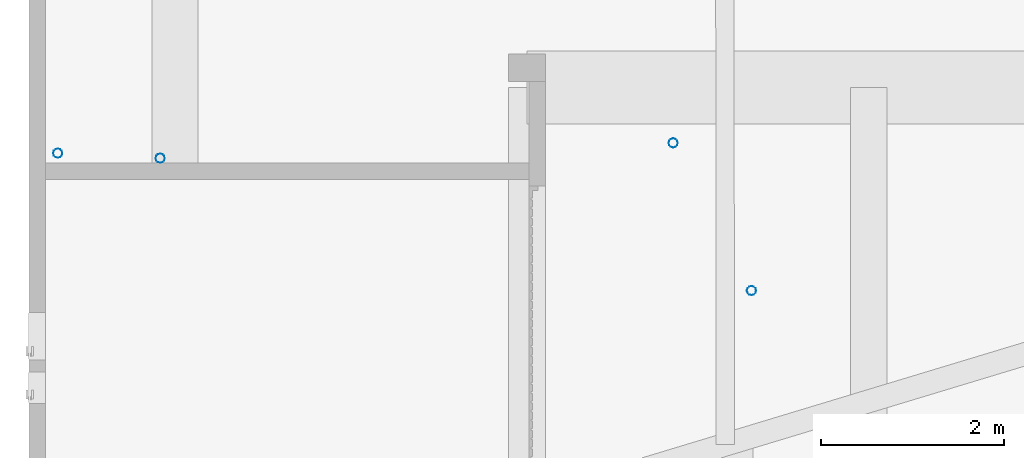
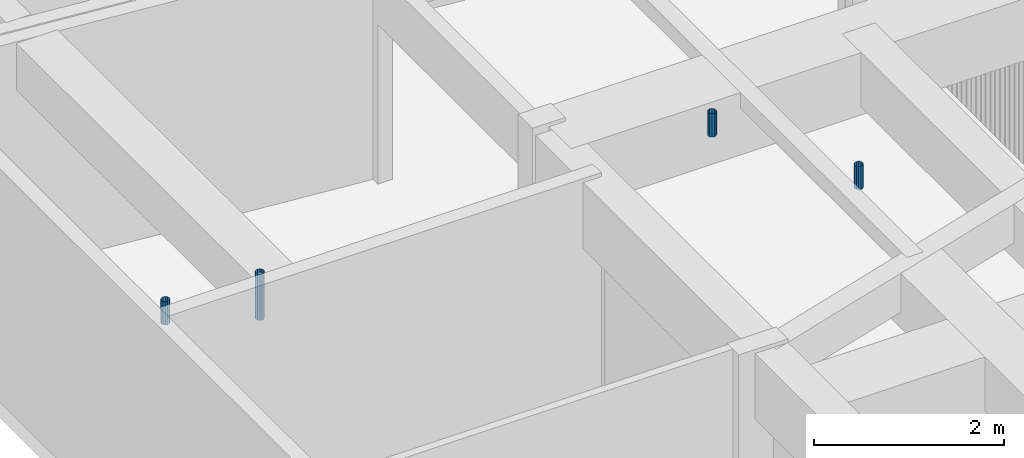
# One storey, part 25 of 41: 4 discrete accessories.
"""IFC2X3 building model written with IfcOpenShell, lengths in millimetres."""

from ifc_helpers import new_model, entity, si_unit, converted_unit, derived_unit, money_unit, direction, frame, origin_with_axes, place, context, subcontext, project, spatial, open_shell, surface_model, source, transform, mapped, type_object, element, save


model = new_model("IFC2X3")

# Units and contexts
model_context = context("Model", 3, precision=0.01, world=origin_with_axes(), true_north=direction((0.0, 1.0)))
body_context = subcontext(model_context, "Body", "Model", "MODEL_VIEW")
ifc_project = project(units=[si_unit("LENGTHUNIT", "METRE", prefix="MILLI"), si_unit("AREAUNIT", "SQUARE_METRE"), si_unit("VOLUMEUNIT", "CUBIC_METRE"), converted_unit("PLANEANGLEUNIT", "DEGREE", entity("IfcPlaneAngleMeasure", 0.0174532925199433), si_unit("PLANEANGLEUNIT", "RADIAN"), dimensions=[0, 0, 0, 0, 0, 0, 0]), money_unit("USD"), converted_unit("TIMEUNIT", "Year", entity("IfcTimeMeasure", 31557600.0), si_unit("TIMEUNIT", "SECOND"), dimensions=[0, 0, 1, 0, 0, 0, 0]), si_unit("MASSUNIT", "GRAM", prefix="KILO"), si_unit("THERMODYNAMICTEMPERATUREUNIT", "DEGREE_CELSIUS"), si_unit("LUMINOUSINTENSITYUNIT", "LUMEN"), si_unit("ENERGYUNIT", "JOULE", prefix="MEGA"), derived_unit("THERMALCONDUCTANCEUNIT", [(si_unit("POWERUNIT", "WATT"), 1), (si_unit("LENGTHUNIT", "METRE"), -1), (si_unit("THERMODYNAMICTEMPERATUREUNIT", "KELVIN"), -1)]), derived_unit("SPECIFICHEATCAPACITYUNIT", [(si_unit("ENERGYUNIT", "JOULE"), 1), (si_unit("MASSUNIT", "GRAM", prefix="KILO"), -1), (si_unit("THERMODYNAMICTEMPERATUREUNIT", "KELVIN"), -1)]), derived_unit("MASSDENSITYUNIT", [(si_unit("MASSUNIT", "GRAM", prefix="KILO"), 1), (si_unit("VOLUMEUNIT", "CUBIC_METRE"), -1)])], contexts=[model_context])

# Site, building, storey
site_placement = place(None, origin_with_axes())
site = spatial("IfcSite", under=ifc_project, at=site_placement, Name="Site", CompositionType="ELEMENT")
building_placement = place(site_placement, origin_with_axes())
building = spatial("IfcBuilding", under=site, at=building_placement, Name="Bâtiment", CompositionType="ELEMENT")
storey_placement = place(building_placement, origin_with_axes())
storey = spatial("IfcBuildingStorey", under=building, at=storey_placement, Name="sousol", CompositionType="ELEMENT", Elevation=0.0)

# Discrete accessories
discrete_accessory_type = type_object("IfcDiscreteAccessoryType", Name="Tuyau descente 27")
shared_shape_1 = source(origin_with_axes(), body_context, "Body", "SurfaceModel", [
    surface_model("IfcShellBasedSurfaceModel", [(-50.0, 0.0, 300.0), (-50.0, 0.0, 0.0), (-43.30127018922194, -25.0, 0.0), (-43.30127018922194, -25.0, 300.0), (-43.30127018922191, 25.00000000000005, 300.0), (-43.30127018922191, 25.00000000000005, 0.0), (-25.00000000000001, -43.30127018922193, 0.0), (-25.00000000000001, -43.30127018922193, 300.0), (-24.99999999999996, 43.30127018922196, 300.0), (-24.99999999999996, 43.30127018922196, 0.0), (0.0, -50.0, 0.0), (0.0, -50.0, 300.0), (0.0, 50.0, 300.0), (0.0, 50.0, 0.0), (24.99999999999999, -43.30127018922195, 0.0), (24.99999999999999, -43.30127018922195, 300.0), (25.00000000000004, 43.30127018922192, 300.0), (25.00000000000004, 43.30127018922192, 0.0), (43.30127018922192, -25.00000000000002, 0.0), (43.30127018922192, -25.00000000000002, 300.0), (43.30127018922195, 24.99999999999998, 300.0), (43.30127018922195, 24.99999999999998, 0.0), (50.0, 0.0, 0.0), (50.0, 0.0, 300.0)], [open_shell([[[0, 1, 2, 3]], [[4, 5, 1, 0]], [[3, 2, 6, 7]], [[8, 9, 5, 4]], [[7, 6, 10, 11]], [[12, 13, 9, 8]], [[11, 10, 14, 15]], [[16, 17, 13, 12]], [[15, 14, 18, 19]], [[20, 21, 17, 16]], [[19, 18, 22, 23]], [[23, 22, 21, 20]]])]),
])
discrete_accessory_1_placement = place(storey_placement, frame((2216947.023107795, -625966.3902546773, 2700.0), z_axis=(0.0, 0.0, 1.0), x_axis=(-1.0, 0.0, 0.0)))
element("IfcDiscreteAccessory", 1, at=discrete_accessory_1_placement, inside=storey, type_object=discrete_accessory_type, Name="Obj.-318", context=body_context, shape_type="MappedRepresentation", body=[
    mapped(shared_shape_1, transform((0.0, 0.0, 0.0))),
])
shared_shape_2 = source(origin_with_axes(), body_context, "Body", "SurfaceModel", [
    surface_model("IfcShellBasedSurfaceModel", [(50.0, 0.0, 300.0), (43.30127018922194, -25.0, 300.0), (43.30127018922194, -25.0, 0.0), (50.0, 0.0, 0.0), (25.00000000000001, -43.30127018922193, 300.0), (25.00000000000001, -43.30127018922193, 0.0), (43.30127018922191, 25.00000000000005, 300.0), (43.30127018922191, 25.00000000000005, 0.0), (0.0, -50.0, 300.0), (0.0, -50.0, 0.0), (24.99999999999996, 43.30127018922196, 300.0), (24.99999999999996, 43.30127018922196, 0.0), (-24.99999999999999, -43.30127018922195, 300.0), (-24.99999999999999, -43.30127018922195, 0.0), (0.0, 50.0, 300.0), (0.0, 50.0, 0.0), (-43.30127018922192, -25.00000000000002, 300.0), (-43.30127018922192, -25.00000000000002, 0.0), (-25.00000000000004, 43.30127018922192, 300.0), (-25.00000000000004, 43.30127018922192, 0.0), (-50.0, 0.0, 300.0), (-50.0, 0.0, 0.0), (-43.30127018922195, 24.99999999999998, 300.0), (-43.30127018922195, 24.99999999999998, 0.0)], [open_shell([[[0, 1, 2, 3]], [[1, 4, 5, 2]], [[6, 0, 3, 7]], [[4, 8, 9, 5]], [[10, 6, 7, 11]], [[8, 12, 13, 9]], [[14, 10, 11, 15]], [[12, 16, 17, 13]], [[18, 14, 15, 19]], [[16, 20, 21, 17]], [[22, 18, 19, 23]], [[20, 22, 23, 21]]])]),
])
for number, where, z_axis, x_axis, name in (
    (2, (2224514.034335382, -627465.0759325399, 2700.0), (0.0, 0.0, 1.0), (1.0, 0.0, 0.0), "Obj.-318"),
    (3, (2223660.409835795, -625854.7847658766, 2700.0), (0.0, 0.0, 1.0), (1.0, 0.0, 0.0), "Obj.-318"),
):
    element("IfcDiscreteAccessory", number, at=place(storey_placement, frame(where, z_axis=z_axis, x_axis=x_axis)), inside=storey, type_object=discrete_accessory_type, Name=name, context=body_context, shape_type="MappedRepresentation", body=[
        mapped(shared_shape_2, transform((0.0, 0.0, 0.0))),
    ])
shared_shape_3 = source(origin_with_axes(), body_context, "Body", "SurfaceModel", [
    surface_model("IfcShellBasedSurfaceModel", [(50.0, 0.0, 600.0), (43.30127018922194, -25.0, 600.0), (43.30127018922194, -25.0, 0.0), (50.0, 0.0, 0.0), (25.00000000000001, -43.30127018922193, 600.0), (25.00000000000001, -43.30127018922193, 0.0), (43.30127018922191, 25.00000000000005, 600.0), (43.30127018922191, 25.00000000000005, 0.0), (0.0, -50.0, 600.0), (0.0, -50.0, 0.0), (24.99999999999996, 43.30127018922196, 600.0), (24.99999999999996, 43.30127018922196, 0.0), (-24.99999999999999, -43.30127018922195, 600.0), (-24.99999999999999, -43.30127018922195, 0.0), (0.0, 50.0, 600.0), (0.0, 50.0, 0.0), (-43.30127018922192, -25.00000000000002, 600.0), (-43.30127018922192, -25.00000000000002, 0.0), (-25.00000000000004, 43.30127018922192, 600.0), (-25.00000000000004, 43.30127018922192, 0.0), (-50.0, 0.0, 600.0), (-50.0, 0.0, 0.0), (-43.30127018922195, 24.99999999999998, 600.0), (-43.30127018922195, 24.99999999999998, 0.0)], [open_shell([[[0, 1, 2, 3]], [[1, 4, 5, 2]], [[6, 0, 3, 7]], [[4, 8, 9, 5]], [[10, 6, 7, 11]], [[8, 12, 13, 9]], [[14, 10, 11, 15]], [[12, 16, 17, 13]], [[18, 14, 15, 19]], [[16, 20, 21, 17]], [[22, 18, 19, 23]], [[20, 22, 23, 21]]])]),
])
discrete_accessory_2_placement = place(storey_placement, frame((2218064.406529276, -626021.2141322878, 2400.0), z_axis=(0.0, 0.0, 1.0), x_axis=(1.0, 0.0, 0.0)))
element("IfcDiscreteAccessory", 4, at=discrete_accessory_2_placement, inside=storey, type_object=discrete_accessory_type, Name="Obj.-318", context=body_context, shape_type="MappedRepresentation", body=[
    mapped(shared_shape_3, transform((0.0, 0.0, 0.0))),
])

save(model, "model.ifc")
